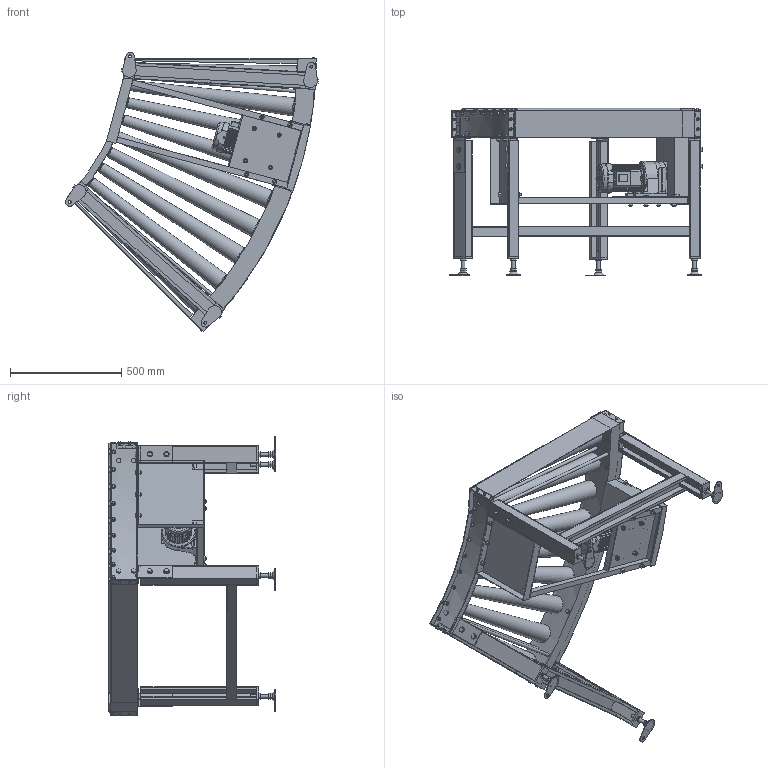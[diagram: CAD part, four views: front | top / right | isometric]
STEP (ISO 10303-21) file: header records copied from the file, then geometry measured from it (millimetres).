
FILE_DESCRIPTION( (''), '2;1');
FILE_NAME ('WEB-MCC3-45-800-100-45°-R.stp','2025-07-18T08:05:25',(''),(''),'spGate 20.6.2 (****-****-****-****)','','');
FILE_SCHEMA (('AUTOMOTIVE_DESIGN'));
Length unit declared in the file: millimetre
Products named in the file (22): WEB-MCC3-45-800-100-45_-R; TEMP_X_T-prt0; TEMP_X_T-prt1; TEMP_X_T-prt2; TEMP_X_T-prt3; TEMP_X_T-prt4; TEMP_X_T-prt5; TEMP_X_T-prt6; TEMP_X_T-prt7; TEMP_X_T-prt8; TEMP_X_T-prt9; TEMP_X_T-prt10; TEMP_X_T-prt11; TEMP_X_T-prt12; TEMP_X_T-prt13; TEMP_X_T-prt14; TEMP_X_T-prt15; TEMP_X_T-prt16; TEMP_X_T-prt17; TEMP_X_T-prt18; TEMP_X_T-prt19; TEMP_X_T-prt20
Assembly tree (21 placements, depth 2):
  WEB-MCC3-45-800-100-45_-R
    TEMP_X_T-prt0
    TEMP_X_T-prt1
    TEMP_X_T-prt2
    TEMP_X_T-prt3
    TEMP_X_T-prt4
    TEMP_X_T-prt5
    TEMP_X_T-prt6
    TEMP_X_T-prt7
    TEMP_X_T-prt8
    TEMP_X_T-prt9
    TEMP_X_T-prt10
    TEMP_X_T-prt11
    TEMP_X_T-prt12
    TEMP_X_T-prt13
    TEMP_X_T-prt14
    TEMP_X_T-prt15
    TEMP_X_T-prt16
    TEMP_X_T-prt17
    TEMP_X_T-prt18
    TEMP_X_T-prt19
    TEMP_X_T-prt20
Bounding box: 1135.07 x 751 x 1255.82 mm (x, y, z)
Volume: 46161984.8 mm3; surface area: 5693469.5 mm2
Topology: 21 solids, 22 shells, 2615 faces, 6702 edges, 4435 vertices
Faces by surface type: plane 2025, cylinder 515, bspline 75
Full cylindrical faces by diameter (mm): 5 x4, 6 x20, 7 x8, 8 x6, 9.2 x4, 10 x46, 10.5 x4, 12 x11, 12.2 x12, 13 x12, 13.8 x12, 15 x1, 15.4 x19, 16 x16, 17.3 x9, 18 x14, 18.4 x24, 21 x4, 21.5 x1, 24 x8, 28 x10, 31 x1, 63 x1, 113.2 x1, 153 x1
Entity records: 140380 total; most frequent: CARTESIAN_POINT 21634, ORIENTED_EDGE 13402, DIRECTION 13106, COLOUR_RGB 9337, PRESENTATION_STYLE_ASSIGNMENT 9337, STYLED_ITEM 9337, EDGE_CURVE 6701, DRAUGHTING_PRE_DEFINED_CURVE_FONT 6701
